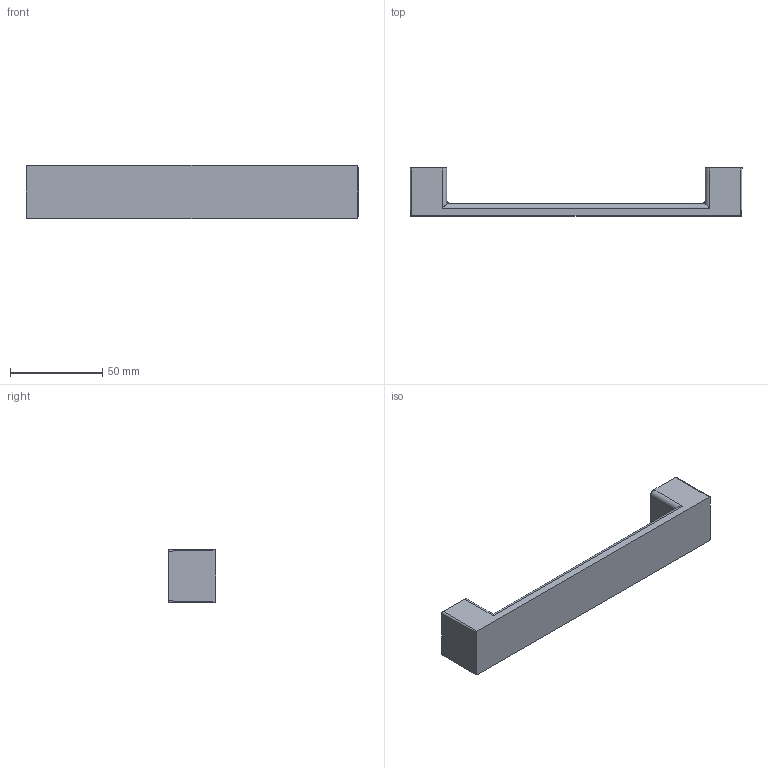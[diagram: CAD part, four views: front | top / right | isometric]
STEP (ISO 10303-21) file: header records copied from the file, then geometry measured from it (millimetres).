
FILE_DESCRIPTION( ( '' ), '1' );
FILE_NAME( 'D:/1.AUTOCAD EXPORT/Group 10/sheet_10_1/9113403.stp', '2013-10-21T12:10:24', ( '' ), ( '' ), ' ', ' ', ' ' );
FILE_SCHEMA( ( 'automotive_design' ) );
Length unit declared in the file: millimetre
Products named in the file (1): 1
Bounding box: 180 x 26 x 29 mm (x, y, z)
Volume: 55285.1 mm3; surface area: 16753.6 mm2
Topology: 1 solids, 1 shells, 84 faces, 220 edges, 144 vertices
Faces by surface type: cylinder 44, plane 40
Entity records: 5168 total; most frequent: CARTESIAN_POINT 509, DIRECTION 470, STYLED_ITEM 449, PRESENTATION_STYLE_ASSIGNMENT 449, COLOUR_RGB 449, ORIENTED_EDGE 440, EDGE_CURVE 220, CURVE_STYLE 220
